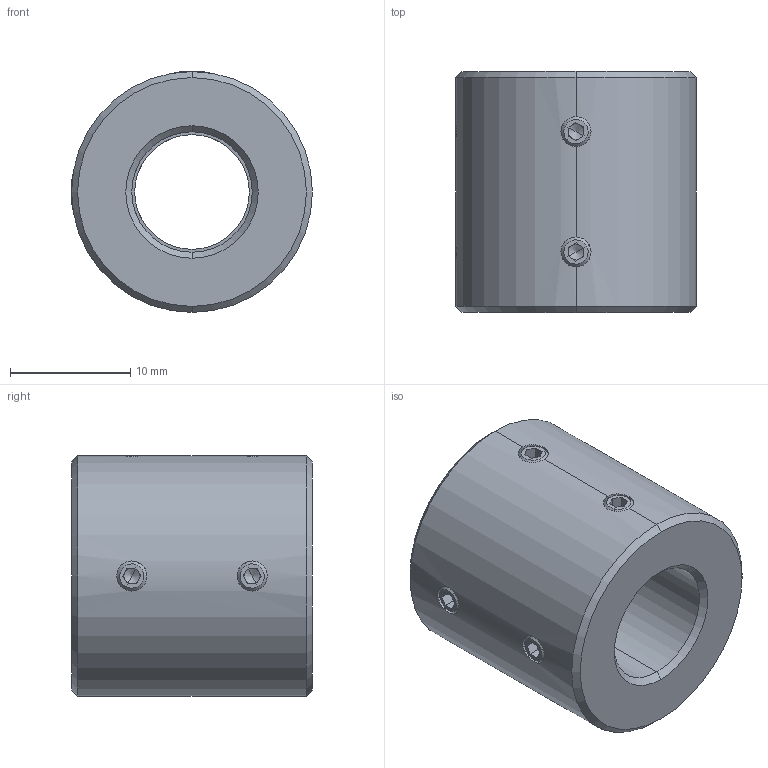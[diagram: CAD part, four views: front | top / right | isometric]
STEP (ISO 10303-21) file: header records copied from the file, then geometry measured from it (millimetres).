
FILE_DESCRIPTION (( 'STEP AP214' ), '1' );
FILE_NAME ('LL-D-D20L20-9.525-10.STEP', '2022-07-23T06:39:15', ( '' ), ( '' ), 'SwSTEP 2.0', 'SolidWorks 2022', '' );
FILE_SCHEMA (( 'AUTOMOTIVE_DESIGN' ));
Length unit declared in the file: millimetre
Products named in the file (1): LL-D-D20L20-9.525-10
Bounding box: 20 x 20 x 20 mm (x, y, z)
Volume: 4727.5 mm3; surface area: 2391.2 mm2
Topology: 1 solids, 1 shells, 113 faces, 286 edges, 176 vertices
Faces by surface type: plane 59, cone 32, cylinder 22
Entity records: 3638 total; most frequent: CARTESIAN_POINT 888, DIRECTION 582, ORIENTED_EDGE 556, EDGE_CURVE 278, AXIS2_PLACEMENT_3D 214, VERTEX_POINT 176, VECTOR 154, LINE 154
